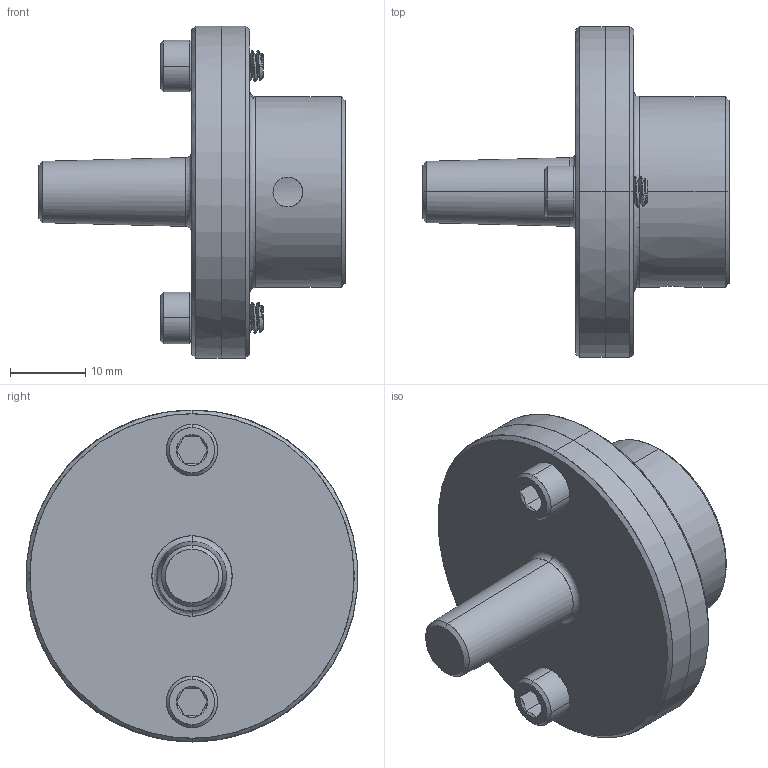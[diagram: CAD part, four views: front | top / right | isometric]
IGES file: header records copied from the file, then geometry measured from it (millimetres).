
Start section: Comment
Global section: file name: 1203.igs; native system:  By Spatial Corp.; preprocessor: XPlus PS/IGES 3.0; author: sherline; organization: Title; date: 20210930.100429; units: inch
Bounding box: 40.77 x 44.06 x 44.2 mm (x, y, z)
Surface area: 9914.4 mm2 (no closed solid volume)
Topology: 0 solids, 0 shells, 225 faces, 1456 edges, 1456 vertices
Faces by surface type: revolution 194, extrusion 27, bspline 4
